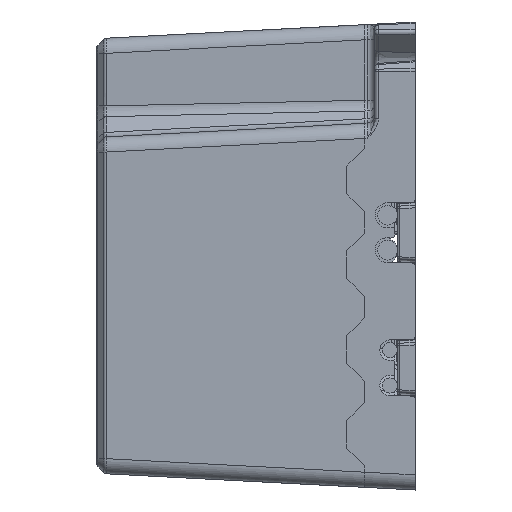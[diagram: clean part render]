
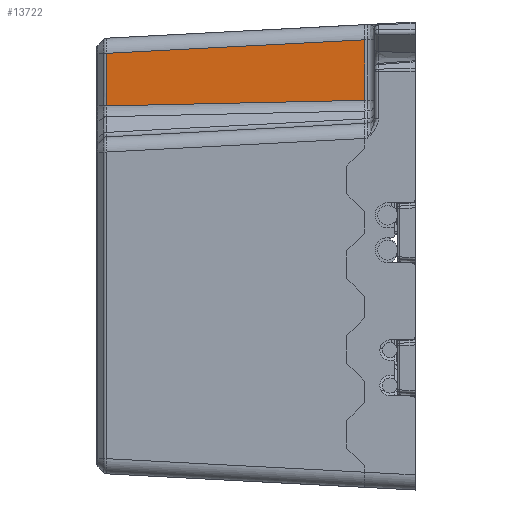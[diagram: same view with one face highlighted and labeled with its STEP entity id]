
A CAD part, left-side view. The second image highlights one B-rep face of the part: STEP entity #13722.
In plain terms, the highlighted planar face has unit normal (-0.999, 0.052, 0).
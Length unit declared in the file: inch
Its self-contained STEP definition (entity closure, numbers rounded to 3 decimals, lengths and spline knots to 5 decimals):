
#17 = EDGE_LOOP ( 'NONE', ( #23309, #4465, #9942, #15204, #18246 ) ) ;
#331 = EDGE_CURVE ( 'NONE', #9526, #21919, #4051, .T. ) ;
#473 = CARTESIAN_POINT ( 'NONE',  ( -2.25503, 1.22059, 0.5932 ) ) ;
#677 = DIRECTION ( 'NONE',  ( 0., 0., -1. ) ) ;
#1384 = EDGE_CURVE ( 'NONE', #21919, #15070, #19082, .T. ) ;
#2774 = CARTESIAN_POINT ( 'NONE',  ( -2.31059, 0.16054, 0.61633 ) ) ;
#4051 = B_SPLINE_CURVE_WITH_KNOTS ( 'NONE', 3,
 ( #28130, #28106, #27967, #28442 ),
 .UNSPECIFIED., .F., .F.,
 ( 4, 4 ),
 ( 0., 0.00001 ),
 .UNSPECIFIED. ) ;
#4206 = CARTESIAN_POINT ( 'NONE',  ( -2.319, 0., 0. ) ) ;
#4465 = ORIENTED_EDGE ( 'NONE', *, *, #23020, .T. ) ;
#4860 = DIRECTION ( 'NONE',  ( 0.052, 0.997, -0.052 ) ) ;
#6527 = DIRECTION ( 'NONE',  ( -0.052, -0.999, 0. ) ) ;
#6897 = VERTEX_POINT ( 'NONE', #29624 ) ;
#7766 = CARTESIAN_POINT ( 'NONE',  ( -2.30852, 0.2, 0.8546 ) ) ;
#8448 = PLANE ( 'NONE',  #29137 ) ;
#9526 = VERTEX_POINT ( 'NONE', #9882 ) ;
#9699 = VECTOR ( 'NONE', #14241, 39.37008 ) ;
#9882 = CARTESIAN_POINT ( 'NONE',  ( -2.25503, 1.2206, 0.80111 ) ) ;
#9942 = ORIENTED_EDGE ( 'NONE', *, *, #331, .T. ) ;
#10450 = VECTOR ( 'NONE', #29155, 39.37008 ) ;
#11991 = VECTOR ( 'NONE', #4860, 39.37008 ) ;
#13722 = ADVANCED_FACE ( 'NONE', ( #21006 ), #8448, .T. ) ;
#13814 = CARTESIAN_POINT ( 'NONE',  ( -2.31664, 0.04509, 0.86272 ) ) ;
#14241 = DIRECTION ( 'NONE',  ( -0.052, -0.998, 0.022 ) ) ;
#15070 = VERTEX_POINT ( 'NONE', #25889 ) ;
#15204 = ORIENTED_EDGE ( 'NONE', *, *, #1384, .T. ) ;
#16155 = EDGE_CURVE ( 'NONE', #29806, #6897, #17301, .T. ) ;
#17301 = LINE ( 'NONE', #26881, #10450 ) ;
#18101 = LINE ( 'NONE', #13814, #11991 ) ;
#18246 = ORIENTED_EDGE ( 'NONE', *, *, #20128, .T. ) ;
#18358 = VECTOR ( 'NONE', #677, 39.37008 ) ;
#18470 = CARTESIAN_POINT ( 'NONE',  ( -2.25503, 1.22059, 0.80081 ) ) ;
#19082 = LINE ( 'NONE', #473, #18358 ) ;
#20128 = EDGE_CURVE ( 'NONE', #15070, #6897, #22623, .T. ) ;
#20295 = DIRECTION ( 'NONE',  ( -0.999, 0.052, 0. ) ) ;
#21006 = FACE_OUTER_BOUND ( 'NONE', #17, .T. ) ;
#21919 = VERTEX_POINT ( 'NONE', #18470 ) ;
#22623 = LINE ( 'NONE', #2774, #9699 ) ;
#23020 = EDGE_CURVE ( 'NONE', #29806, #9526, #18101, .T. ) ;
#23309 = ORIENTED_EDGE ( 'NONE', *, *, #16155, .F. ) ;
#25889 = CARTESIAN_POINT ( 'NONE',  ( -2.25503, 1.22059, 0.59332 ) ) ;
#26881 = CARTESIAN_POINT ( 'NONE',  ( -2.30852, 0.2, 0. ) ) ;
#27967 = CARTESIAN_POINT ( 'NONE',  ( -2.25503, 1.22059, 0.80091 ) ) ;
#28106 = CARTESIAN_POINT ( 'NONE',  ( -2.25503, 1.22059, 0.80101 ) ) ;
#28130 = CARTESIAN_POINT ( 'NONE',  ( -2.25503, 1.2206, 0.80111 ) ) ;
#28442 = CARTESIAN_POINT ( 'NONE',  ( -2.25503, 1.22059, 0.80081 ) ) ;
#29137 = AXIS2_PLACEMENT_3D ( 'NONE', #4206, #20295, #6527 ) ;
#29155 = DIRECTION ( 'NONE',  ( 0., 0., -1. ) ) ;
#29624 = CARTESIAN_POINT ( 'NONE',  ( -2.30852, 0.2, 0.61548 ) ) ;
#29806 = VERTEX_POINT ( 'NONE', #7766 ) ;
